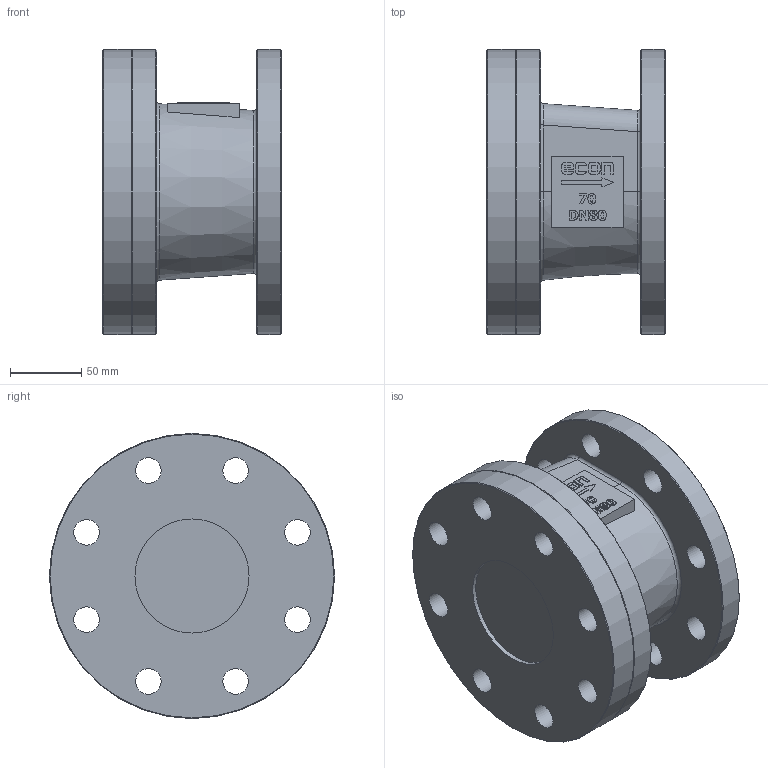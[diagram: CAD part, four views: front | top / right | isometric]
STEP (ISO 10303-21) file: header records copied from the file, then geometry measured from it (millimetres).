
FILE_DESCRIPTION(/* description */ ('Eriks item no: 12160579'),/* implementation_level */ '2;1');
FILE_NAME(/* name */ 'L:\DATA\ENG\Inventor\Econ 3D modellen\terugslagklep\70NGY\70NGY-DN80-PN16-NBR.stp',/* time_stamp */ '2023-12-05T08:14:36+01:00',/* author */ ('roger.thijssen'),/* organization */ (''),/* preprocessor_version */ 'ST-DEVELOPER v18',/* originating_system */ 'Autodesk Inventor 2020',/* authorisation */ '');
FILE_SCHEMA (('CONFIG_CONTROL_DESIGN'));
Length unit declared in the file: millimetre
Products named in the file (1): Check valve, 70NGY-DN80-PN16-NBR
Bounding box: 125 x 200 x 200 mm (x, y, z)
Volume: 2466378.1 mm3; surface area: 181715.5 mm2
Topology: 1 solids, 1 shells, 210 faces, 555 edges, 369 vertices
Faces by surface type: plane 100, bspline 59, cylinder 42, cone 7, torus 2
Full cylindrical faces by diameter (mm): 18 x16, 80 x2, 200 x3
Entity records: 7252 total; most frequent: CARTESIAN_POINT 2177, ORIENTED_EDGE 1110, DIRECTION 863, EDGE_CURVE 555, VERTEX_POINT 369, LINE 329, VECTOR 329, AXIS2_PLACEMENT_3D 267
